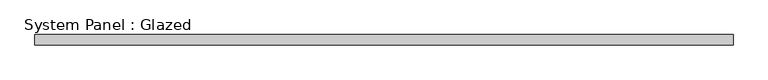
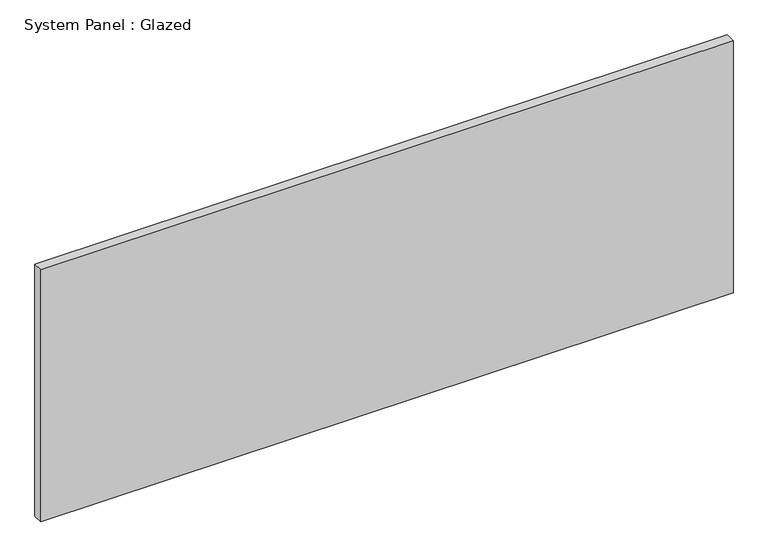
"""IFC4 building model written with IfcOpenShell, lengths in millimetres: plate geometry, System Panel : Glazed."""

from ifc_helpers import new_model, si_unit, origin, origin_with_axes, place, context, project, spatial, polyline, outline, extrude, source, transform, mapped, element, save


def system_panel_glazed_a732a05d(model_context):
    return source(origin(), model_context, "Body", "SweptSolid", [
        extrude(outline(polyline([(866.775, 19.05), (-866.775, 19.05), (-866.775, 44.45), (866.775, 44.45), (866.775, 19.05)])), origin_with_axes(), (0.0, 0.0, 1.0), 666.75),
    ])


if __name__ == "__main__":
    model = new_model("IFC4")
    model_context = context("Model", 3, world=origin())
    ifc_project = project(units=[si_unit("LENGTHUNIT", "METRE", prefix="MILLI")], contexts=[model_context])
    site = spatial("IfcSite", under=ifc_project)
    building = spatial("IfcBuilding", under=site)
    placement = place(None, origin())
    system_panel_glazed_shape = system_panel_glazed_a732a05d(model_context)
    element("IfcPlate", 1, ObjectType="System Panel : Glazed", at=placement, inside=building, context=model_context, shape_type="MappedRepresentation", body=[
        mapped(system_panel_glazed_shape, transform((0.0, 0.0, 0.0), x_axis=(1.0, 0.0, 0.0), y_axis=(0.0, 1.0, 0.0), z_axis=(0.0, 0.0, 1.0))),
    ])
    save(model, "model.ifc")
